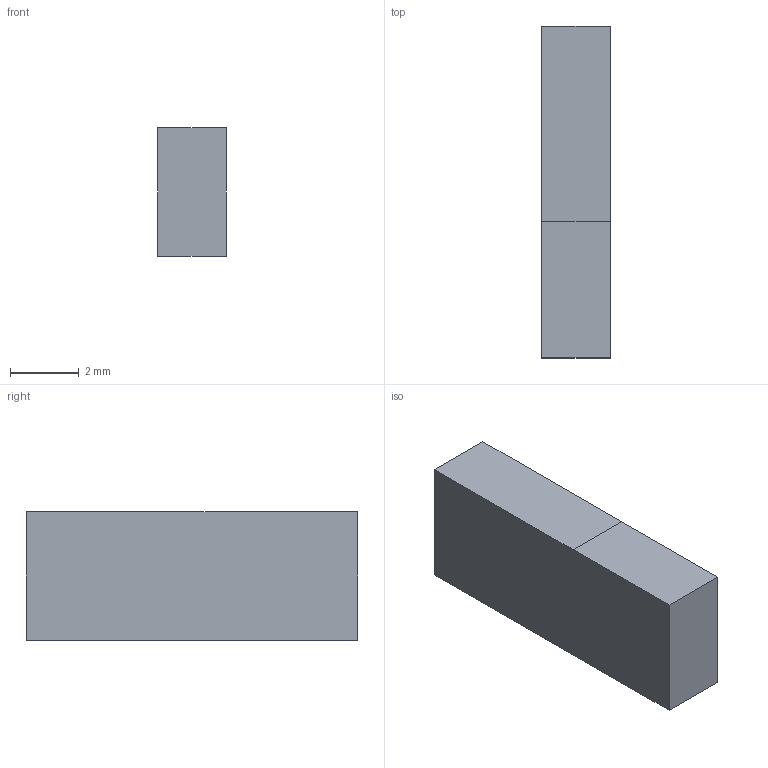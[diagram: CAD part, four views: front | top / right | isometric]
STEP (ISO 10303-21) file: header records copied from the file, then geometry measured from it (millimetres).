
FILE_DESCRIPTION(/* description */ ('STEP AP242 Edition 2','CAx-IF Rec.Pracs.---Representation and Presentation of Product Manufacturing Information (PMI)---4.0---2014-10-13','CAx-IF Rec.Pracs.---3D Tessellated Geometry---0.4---2014-09-14','2;1','CAx-IF Rec.Pracs.---User Defined Attributes---1.5---2016-08-15'),/* implementation_level */ '2;1');
FILE_NAME(/* name */ 'LCD_TFT_1.8_SPI_ST7735 - Part 6',/* time_stamp */ '2026-04-28T02:34:33Z',/* author */ (''),/* organization */ (''),/* preprocessor_version */ 'ST-DEVELOPER v20',/* originating_system */ 'ONSHAPE BY PTC INC, 1.214',/* authorisation */ ' ');
FILE_SCHEMA (('AP242_MANAGED_MODEL_BASED_3D_ENGINEERING_MIM_LF { 1 0 10303 442 3 1 4 }'));
Length unit declared in the file: metre
Products named in the file (1): Part 6
Bounding box: 2 x 9.68 x 3.76 mm (x, y, z)
Volume: 72.8 mm3; surface area: 126.6 mm2
Topology: 1 solids, 1 shells, 8 faces, 18 edges, 12 vertices
Faces by surface type: plane 8
Entity records: 244 total; most frequent: CARTESIAN_POINT 39, ORIENTED_EDGE 36, DIRECTION 36, EDGE_CURVE 18, LINE 18, VECTOR 18, VERTEX_POINT 12, AXIS2_PLACEMENT_3D 9
